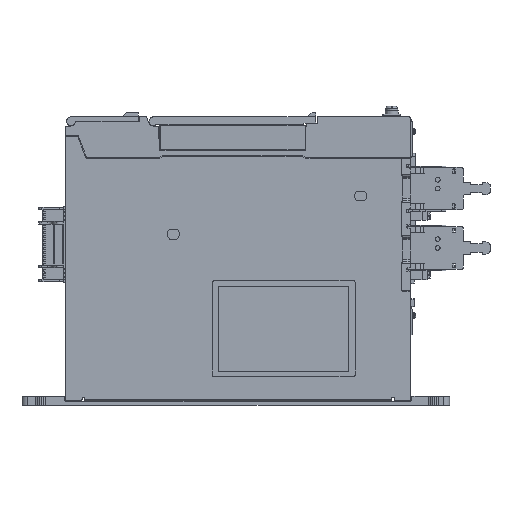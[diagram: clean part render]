
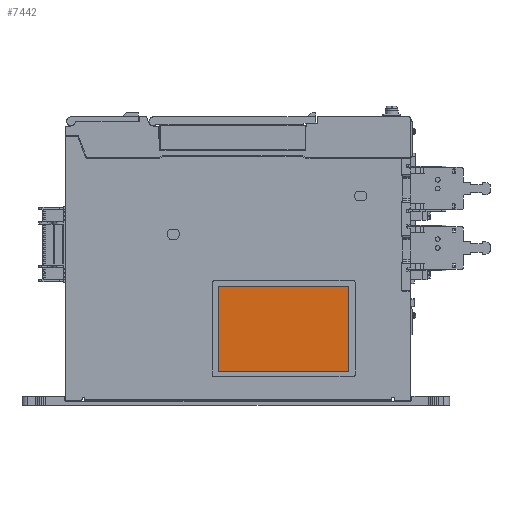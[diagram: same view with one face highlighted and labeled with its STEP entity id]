
A CAD part, left-side view. The second image highlights one B-rep face of the part: STEP entity #7442.
In plain terms, the highlighted planar face has unit normal (-1, 0, 0).
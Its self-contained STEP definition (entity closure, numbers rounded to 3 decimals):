
#7442 = ADVANCED_FACE( '', ( #17559 ), #17560, .F. );
#17559 = FACE_OUTER_BOUND( '', #30534, .T. );
#17560 = PLANE( '', #30535 );
#30534 = EDGE_LOOP( '', ( #53865, #53866, #53867, #53868, #53869, #53870, #53871, #53872 ) );
#30535 = AXIS2_PLACEMENT_3D( '', #53873, #53874, #53875 );
#53865 = ORIENTED_EDGE( '', *, *, #87037, .F. );
#53866 = ORIENTED_EDGE( '', *, *, #87038, .F. );
#53867 = ORIENTED_EDGE( '', *, *, #80509, .F. );
#53868 = ORIENTED_EDGE( '', *, *, #87039, .F. );
#53869 = ORIENTED_EDGE( '', *, *, #82616, .F. );
#53870 = ORIENTED_EDGE( '', *, *, #87040, .F. );
#53871 = ORIENTED_EDGE( '', *, *, #85458, .F. );
#53872 = ORIENTED_EDGE( '', *, *, #87041, .F. );
#53873 = CARTESIAN_POINT( '', ( -24.7, 54.1, -147.5 ) );
#53874 = DIRECTION( '', ( 1., 0., 0. ) );
#53875 = DIRECTION( '', ( 0., 0., -1. ) );
#80509 = EDGE_CURVE( '', #98110, #98112, #98113, .T. );
#82616 = EDGE_CURVE( '', #101801, #101803, #101804, .T. );
#85458 = EDGE_CURVE( '', #106360, #106362, #106363, .T. );
#87037 = EDGE_CURVE( '', #108746, #108747, #108748, .T. );
#87038 = EDGE_CURVE( '', #98112, #108746, #108749, .T. );
#87039 = EDGE_CURVE( '', #101803, #98110, #108750, .T. );
#87040 = EDGE_CURVE( '', #106362, #101801, #108751, .T. );
#87041 = EDGE_CURVE( '', #108747, #106360, #108752, .T. );
#98110 = VERTEX_POINT( '', #123238 );
#98112 = VERTEX_POINT( '', #123241 );
#98113 = LINE( '', #123242, #123243 );
#101801 = VERTEX_POINT( '', #128320 );
#101803 = VERTEX_POINT( '', #128323 );
#101804 = LINE( '', #128324, #128325 );
#106360 = VERTEX_POINT( '', #134926 );
#106362 = VERTEX_POINT( '', #134929 );
#106363 = LINE( '', #134930, #134931 );
#108746 = VERTEX_POINT( '', #138351 );
#108747 = VERTEX_POINT( '', #138352 );
#108748 = LINE( '', #138353, #138354 );
#108749 = CIRCLE( '', #138355, 1. );
#108750 = CIRCLE( '', #138356, 1. );
#108751 = CIRCLE( '', #138357, 1. );
#108752 = CIRCLE( '', #138358, 1. );
#123238 = CARTESIAN_POINT( '', ( -24.7, 165.9, -219.5 ) );
#123241 = CARTESIAN_POINT( '', ( -24.7, 165.9, -147.5 ) );
#123242 = CARTESIAN_POINT( '', ( -24.7, 165.9, -219.5 ) );
#123243 = VECTOR( '', #153235, 1000. );
#128320 = CARTESIAN_POINT( '', ( -24.7, 54.1, -220.5 ) );
#128323 = CARTESIAN_POINT( '', ( -24.7, 164.9, -220.5 ) );
#128324 = CARTESIAN_POINT( '', ( -24.7, 54.1, -220.5 ) );
#128325 = VECTOR( '', #155997, 1000. );
#134926 = CARTESIAN_POINT( '', ( -24.7, 53.1, -147.5 ) );
#134929 = CARTESIAN_POINT( '', ( -24.7, 53.1, -219.5 ) );
#134930 = CARTESIAN_POINT( '', ( -24.7, 53.1, -147.5 ) );
#134931 = VECTOR( '', #159056, 1000. );
#138351 = CARTESIAN_POINT( '', ( -24.7, 164.9, -146.5 ) );
#138352 = CARTESIAN_POINT( '', ( -24.7, 54.1, -146.5 ) );
#138353 = CARTESIAN_POINT( '', ( -24.7, 164.9, -146.5 ) );
#138354 = VECTOR( '', #160760, 1000. );
#138355 = AXIS2_PLACEMENT_3D( '', #160761, #160762, #160763 );
#138356 = AXIS2_PLACEMENT_3D( '', #160764, #160765, #160766 );
#138357 = AXIS2_PLACEMENT_3D( '', #160767, #160768, #160769 );
#138358 = AXIS2_PLACEMENT_3D( '', #160770, #160771, #160772 );
#153235 = DIRECTION( '', ( 0., 0., 1. ) );
#155997 = DIRECTION( '', ( 0., 1., 0. ) );
#159056 = DIRECTION( '', ( 0., 0., -1. ) );
#160760 = DIRECTION( '', ( 0., -1., 0. ) );
#160761 = CARTESIAN_POINT( '', ( -24.7, 164.9, -147.5 ) );
#160762 = DIRECTION( '', ( 1., 0., 0. ) );
#160763 = DIRECTION( '', ( 0., 0., -1. ) );
#160764 = CARTESIAN_POINT( '', ( -24.7, 164.9, -219.5 ) );
#160765 = DIRECTION( '', ( 1., 0., 0. ) );
#160766 = DIRECTION( '', ( 0., 0., -1. ) );
#160767 = CARTESIAN_POINT( '', ( -24.7, 54.1, -219.5 ) );
#160768 = DIRECTION( '', ( 1., 0., 0. ) );
#160769 = DIRECTION( '', ( 0., 0., -1. ) );
#160770 = CARTESIAN_POINT( '', ( -24.7, 54.1, -147.5 ) );
#160771 = DIRECTION( '', ( 1., 0., 0. ) );
#160772 = DIRECTION( '', ( 0., 0., -1. ) );
